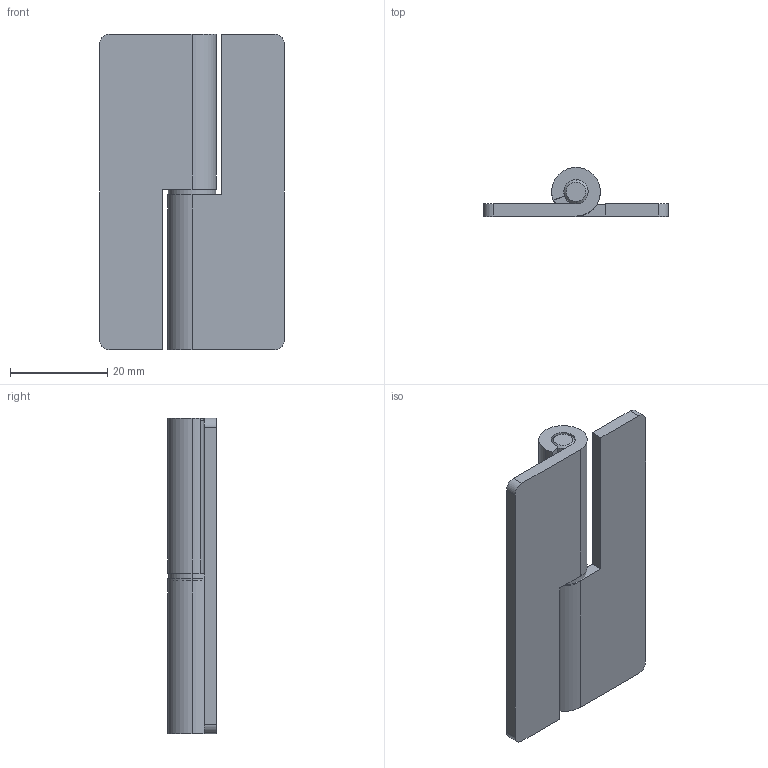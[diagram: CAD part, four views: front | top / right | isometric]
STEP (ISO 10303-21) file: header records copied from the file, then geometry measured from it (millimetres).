
FILE_DESCRIPTION (( 'STEP AP203' ), '1' );
FILE_NAME ('BS-3865-1R.STEP', '2015-11-21T14:40:06', ( '' ), ( '' ), 'SwSTEP 2.0', 'SolidWorks 2014', '' );
FILE_SCHEMA (( 'CONFIG_CONTROL_DESIGN' ));
Length unit declared in the file: millimetre
Products named in the file (4): R; 零件4; 零件5; BS-3865-1R
Assembly tree (4 placements, depth 2):
  BS-3865-1R
    R  x2
    零件4
    零件5
Bounding box: 38 x 10 x 65 mm (x, y, z)
Volume: 9493.5 mm3; surface area: 8760.7 mm2
Topology: 4 solids, 4 shells, 46 faces, 112 edges, 74 vertices
Faces by surface type: cylinder 22, plane 20, cone 4
Entity records: 1322 total; most frequent: DIRECTION 178, CARTESIAN_POINT 153, ORIENTED_EDGE 140, AXIS2_PLACEMENT_3D 71, EDGE_CURVE 70, VERTEX_POINT 46, PERSON_AND_ORGANIZATION 36, VECTOR 36
